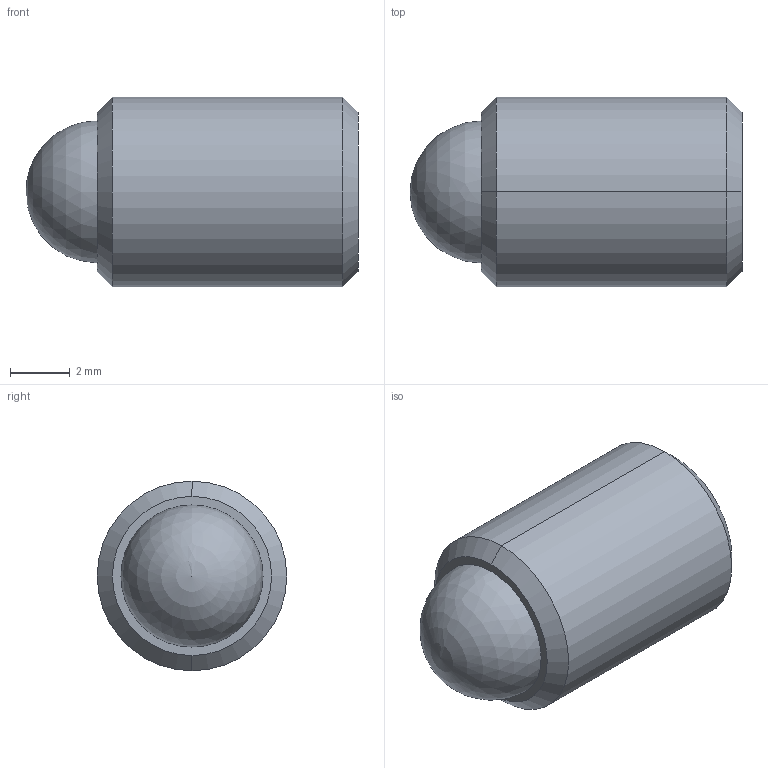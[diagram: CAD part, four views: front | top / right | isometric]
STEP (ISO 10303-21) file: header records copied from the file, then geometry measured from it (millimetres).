
FILE_DESCRIPTION (( 'STEP AP214' ), '1' );
FILE_NAME ('TS250-100-438-AA.STEP', '2013-02-13T13:59:15', ( 'workpc' ), ( 'Microsoft' ), 'SwSTEP 2.0', 'SolidWorks 2013', '' );
FILE_SCHEMA (( 'AUTOMOTIVE_DESIGN' ));
Length unit declared in the file: inch
Products named in the file (1): TS250-100-438-AA
Bounding box: 11.13 x 6.35 x 6.35 mm (x, y, z)
Volume: 285.5 mm3; surface area: 341.9 mm2
Topology: 2 solids, 2 shells, 20 faces, 45 edges, 29 vertices
Faces by surface type: plane 10, cylinder 4, cone 4, sphere 2
Entity records: 599 total; most frequent: DIRECTION 96, CARTESIAN_POINT 87, ORIENTED_EDGE 80, EDGE_CURVE 40, AXIS2_PLACEMENT_3D 35, LINE 26, VECTOR 26, VERTEX_POINT 26
